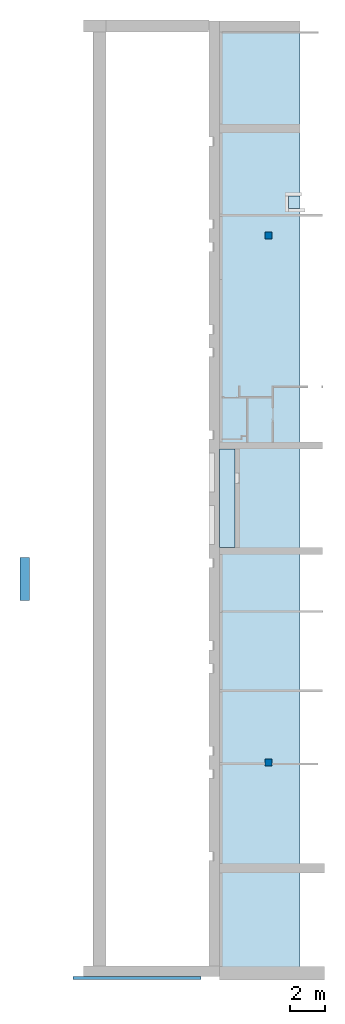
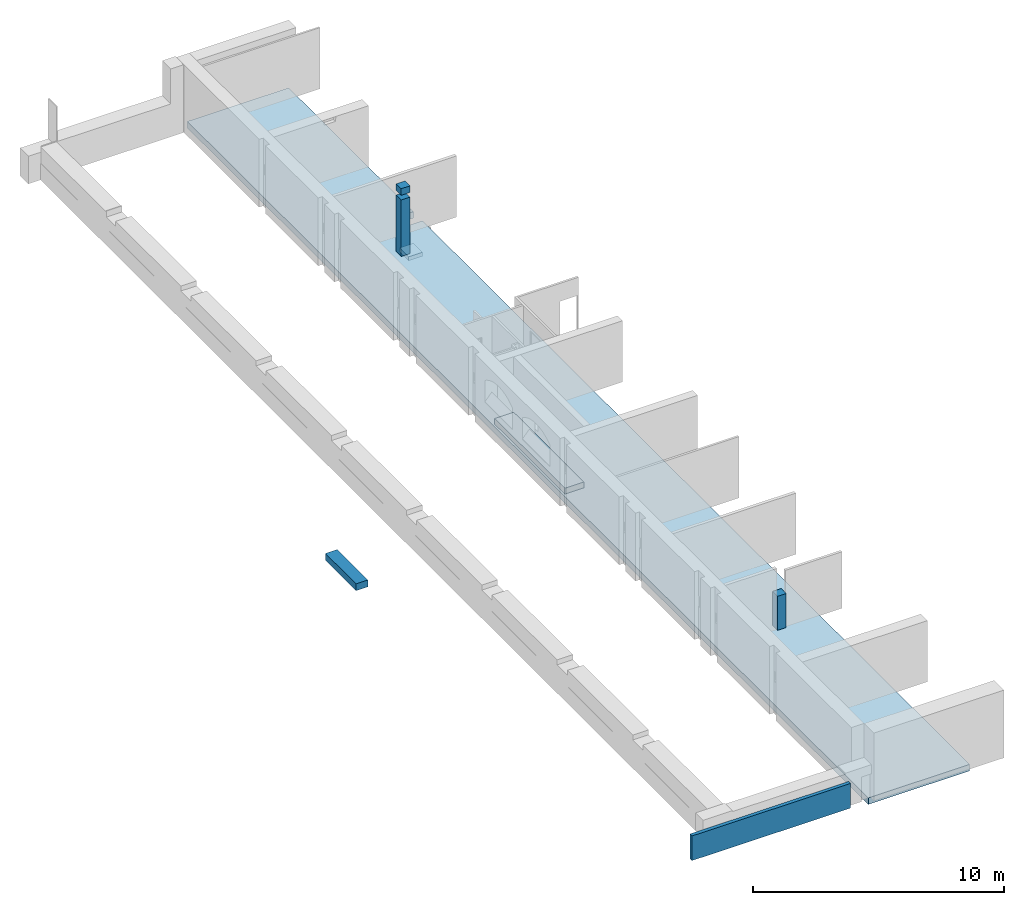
# One storey, part 1 of 11: 3 slabs, 2 columns, 1 beam, 1 wall, 6 openings, 1 element without a shape of its own.
"""IFC2X3 building model written with IfcOpenShell, lengths in millimetres."""

from ifc_helpers import new_model, entity, si_unit, converted_unit, derived_unit, direction, frame, frame_2d, origin, origin_2d_with_axis, place, context, subcontext, project, spatial, polyline, rectangle, outline, extrude, faceted_brep, source, transform, mapped, material, layer, layer_set, layer_usage, type_object, type_shapes, element, aggregate, save


model = new_model("IFC2X3")

# Units and contexts
model_context = context("Model", 3, precision=0.01, world=origin(), true_north=direction((6.123031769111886e-17, 1.0)))
body_context = subcontext(model_context, "Body", "Model", "MODEL_VIEW")
ifc_project = project(units=[si_unit("LENGTHUNIT", "METRE", prefix="MILLI"), si_unit("AREAUNIT", "SQUARE_METRE"), si_unit("VOLUMEUNIT", "CUBIC_METRE"), converted_unit("PLANEANGLEUNIT", "DEGREE", entity("IfcPlaneAngleMeasure", 0.017453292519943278), si_unit("PLANEANGLEUNIT", "RADIAN"), dimensions=[0, 0, 0, 0, 0, 0, 0]), si_unit("MASSUNIT", "GRAM", prefix="KILO"), derived_unit("MASSDENSITYUNIT", [(si_unit("MASSUNIT", "GRAM", prefix="KILO"), 1), (si_unit("LENGTHUNIT", "METRE"), -3)]), derived_unit("IONCONCENTRATIONUNIT", [(si_unit("MASSUNIT", "GRAM", prefix="KILO"), 1), (si_unit("LENGTHUNIT", "METRE"), -3)]), derived_unit("MOMENTOFINERTIAUNIT", [(si_unit("LENGTHUNIT", "METRE"), 4)]), si_unit("TIMEUNIT", "SECOND"), si_unit("FREQUENCYUNIT", "HERTZ"), si_unit("THERMODYNAMICTEMPERATUREUNIT", "DEGREE_CELSIUS"), derived_unit("THERMALTRANSMITTANCEUNIT", [(si_unit("MASSUNIT", "GRAM", prefix="KILO"), 1), (si_unit("THERMODYNAMICTEMPERATUREUNIT", "KELVIN"), -1), (si_unit("TIMEUNIT", "SECOND"), -3)]), derived_unit("THERMALCONDUCTANCEUNIT", [(si_unit("MASSUNIT", "GRAM", prefix="KILO"), 1), (si_unit("THERMODYNAMICTEMPERATUREUNIT", "KELVIN"), -1), (si_unit("TIMEUNIT", "SECOND"), -3), (si_unit("LENGTHUNIT", "METRE"), 1)]), derived_unit("VOLUMETRICFLOWRATEUNIT", [(si_unit("LENGTHUNIT", "METRE", prefix="DECI"), 3), (si_unit("TIMEUNIT", "SECOND"), -1)]), derived_unit("MASSFLOWRATEUNIT", [(si_unit("MASSUNIT", "GRAM", prefix="KILO"), 1), (si_unit("TIMEUNIT", "SECOND"), -1)]), derived_unit("ROTATIONALFREQUENCYUNIT", [(si_unit("TIMEUNIT", "SECOND"), -1)]), si_unit("ELECTRICCURRENTUNIT", "AMPERE"), si_unit("ELECTRICVOLTAGEUNIT", "VOLT"), si_unit("POWERUNIT", "WATT"), si_unit("FORCEUNIT", "NEWTON", prefix="KILO"), si_unit("ILLUMINANCEUNIT", "LUX"), si_unit("LUMINOUSFLUXUNIT", "LUMEN"), si_unit("LUMINOUSINTENSITYUNIT", "CANDELA"), si_unit("ENERGYUNIT", "JOULE"), derived_unit("USERDEFINED", [(si_unit("MASSUNIT", "GRAM", prefix="KILO"), -1), (si_unit("LENGTHUNIT", "METRE"), -2), (si_unit("TIMEUNIT", "SECOND"), 3), (si_unit("LUMINOUSFLUXUNIT", "LUMEN"), 1)]), derived_unit("USERDEFINED", [(si_unit("MASSUNIT", "GRAM", prefix="KILO"), 1), (si_unit("TIMEUNIT", "SECOND"), -3), (si_unit("LENGTHUNIT", "METRE"), 3), (si_unit("ELECTRICCURRENTUNIT", "AMPERE"), -2)]), derived_unit("SOUNDPOWERUNIT", [(si_unit("MASSUNIT", "GRAM", prefix="KILO"), 1), (si_unit("TIMEUNIT", "SECOND"), -3), (si_unit("LENGTHUNIT", "METRE"), 2)]), derived_unit("SOUNDPRESSUREUNIT", [(si_unit("MASSUNIT", "GRAM", prefix="KILO"), 1), (si_unit("LENGTHUNIT", "METRE"), -1), (si_unit("TIMEUNIT", "SECOND"), -2)]), derived_unit("LINEARVELOCITYUNIT", [(si_unit("LENGTHUNIT", "METRE"), 1), (si_unit("TIMEUNIT", "SECOND"), -1)]), si_unit("PRESSUREUNIT", "PASCAL"), derived_unit("USERDEFINED", [(si_unit("MASSUNIT", "GRAM", prefix="KILO"), 1), (si_unit("LENGTHUNIT", "METRE"), -2), (si_unit("TIMEUNIT", "SECOND"), -2)]), derived_unit("LINEARFORCEUNIT", [(si_unit("MASSUNIT", "GRAM", prefix="KILO"), 1), (si_unit("TIMEUNIT", "SECOND"), -2)]), derived_unit("PLANARFORCEUNIT", [(si_unit("MASSUNIT", "GRAM", prefix="KILO"), 1), (si_unit("LENGTHUNIT", "METRE"), -1), (si_unit("TIMEUNIT", "SECOND"), -2)]), derived_unit("SPECIFICHEATCAPACITYUNIT", [(si_unit("THERMODYNAMICTEMPERATUREUNIT", "KELVIN"), -1), (si_unit("LENGTHUNIT", "METRE"), 2), (si_unit("TIMEUNIT", "SECOND"), -2)]), derived_unit("HEATFLUXDENSITYUNIT", [(si_unit("MASSUNIT", "GRAM", prefix="KILO"), 1), (si_unit("TIMEUNIT", "SECOND"), -3)]), derived_unit("HEATINGVALUEUNIT", [(si_unit("LENGTHUNIT", "METRE"), 2), (si_unit("TIMEUNIT", "SECOND"), -2)]), derived_unit("VAPORPERMEABILITYUNIT", [(si_unit("LENGTHUNIT", "METRE"), -1), (si_unit("TIMEUNIT", "SECOND"), 1)]), derived_unit("DYNAMICVISCOSITYUNIT", [(si_unit("MASSUNIT", "GRAM", prefix="KILO"), 1), (si_unit("TIMEUNIT", "SECOND"), -1), (si_unit("LENGTHUNIT", "METRE"), -1)]), derived_unit("THERMALEXPANSIONCOEFFICIENTUNIT", [(si_unit("THERMODYNAMICTEMPERATUREUNIT", "KELVIN"), -1)]), derived_unit("MODULUSOFELASTICITYUNIT", [(si_unit("MASSUNIT", "GRAM", prefix="KILO"), 1), (si_unit("LENGTHUNIT", "METRE"), -1), (si_unit("TIMEUNIT", "SECOND"), -2)]), derived_unit("ISOTHERMALMOISTURECAPACITYUNIT", [(si_unit("MASSUNIT", "GRAM", prefix="KILO"), -1), (si_unit("LENGTHUNIT", "METRE"), 3)]), derived_unit("MOISTUREDIFFUSIVITYUNIT", [(si_unit("TIMEUNIT", "SECOND"), -1), (si_unit("LENGTHUNIT", "METRE"), 2)]), derived_unit("MASSPERLENGTHUNIT", [(si_unit("MASSUNIT", "GRAM", prefix="KILO"), 1), (si_unit("LENGTHUNIT", "METRE"), -1)]), derived_unit("THERMALRESISTANCEUNIT", [(si_unit("MASSUNIT", "GRAM", prefix="KILO"), -1), (si_unit("TIMEUNIT", "SECOND"), 3), (si_unit("THERMODYNAMICTEMPERATUREUNIT", "KELVIN"), 1)]), derived_unit("ACCELERATIONUNIT", [(si_unit("LENGTHUNIT", "METRE"), 1), (si_unit("TIMEUNIT", "SECOND"), -2)]), derived_unit("ANGULARVELOCITYUNIT", [(si_unit("TIMEUNIT", "SECOND"), -1), (si_unit("PLANEANGLEUNIT", "RADIAN"), 1)]), derived_unit("LINEARSTIFFNESSUNIT", [(si_unit("MASSUNIT", "GRAM", prefix="KILO"), 1), (si_unit("TIMEUNIT", "SECOND"), -2)]), derived_unit("WARPINGCONSTANTUNIT", [(si_unit("LENGTHUNIT", "METRE"), 6)]), derived_unit("LINEARMOMENTUNIT", [(si_unit("MASSUNIT", "GRAM", prefix="KILO"), 1), (si_unit("LENGTHUNIT", "METRE"), 1), (si_unit("TIMEUNIT", "SECOND"), -2)]), derived_unit("TORQUEUNIT", [(si_unit("MASSUNIT", "GRAM", prefix="KILO"), 1), (si_unit("LENGTHUNIT", "METRE"), 2), (si_unit("TIMEUNIT", "SECOND"), -2)])], contexts=[model_context])

# Site, building, storey
site_placement = place(None, origin())
site = spatial("IfcSite", under=ifc_project, at=site_placement, Name="Default", CompositionType="ELEMENT")
building_placement = place(site_placement, origin())
building = spatial("IfcBuilding", under=site, at=building_placement, Name="Eesti Rahvusraamatukogu hoone renoveerimise projekteerimistööd", CompositionType="ELEMENT")
storey_placement = place(building_placement, frame((0.0, 0.0, -1650.0)))
storey = spatial("IfcBuildingStorey", under=building, at=storey_placement, Name="-1. korrus", CompositionType="ELEMENT", Elevation=-1650.0000000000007)

# Columns
ifc_material_1 = material(Name="ol. olev materjal")
column_type_1 = type_object("IfcColumnType", Name="Post, nelinurkne:ol. olev - 400x 400mm", PredefinedType="COLUMN", material=ifc_material_1)
shared_shape_1 = source(origin(), body_context, "Body", "SweptSolid", [
    extrude(rectangle(XDim=400.0, YDim=400.0, at=frame_2d((2.1742607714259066e-12, -42.0344563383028), x_axis=(1.0, 0.0))), frame((-33390.0, 12347.965543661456, -1650.0), z_axis=(0.0, 0.0, 1.0), x_axis=(-1.0, 0.0, 0.0)), (0.0, 0.0, 1.0), 1650.0000000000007),
])
type_shapes(column_type_1, [shared_shape_1])
column_1_placement = place(storey_placement, frame((0.0, 0.0, 1650.0)))
element("IfcColumn", 1, at=column_1_placement, inside=storey, type_object=column_type_1, material=ifc_material_1, Name="Post, nelinurkne:ol. olev - 400x 400mm", ObjectType="Post, nelinurkne:ol. olev - 400x 400mm", context=body_context, shape_type="MappedRepresentation", body=[
    mapped(shared_shape_1, transform((0.0, 0.0, 0.0), scale=1.0)),
])
column_type_2 = type_object("IfcColumnType", Name="Post, nelinurkne:ol. olev - 400x 400mm", PredefinedType="COLUMN", material=ifc_material_1)
shared_shape_2 = source(origin(), body_context, "Body", "SweptSolid", [
    extrude(rectangle(XDim=399.9999999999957, YDim=400.0, at=frame_2d((-4.334310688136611e-12, -2.1742607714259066e-12), x_axis=(1.0, 0.0))), frame((-33390.0, 42390.0, 1330.0), z_axis=(0.0, 0.0, 1.0), x_axis=(0.0, -1.0, 0.0)), (0.0, 0.0, 1.0), 319.99999999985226),
    extrude(rectangle(XDim=400.0, YDim=399.9999999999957, at=frame_2d((2.1742607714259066e-12, 0.0), x_axis=(1.0, 0.0))), frame((-33390.0, 42390.0, -1650.0), z_axis=(0.0, 0.0, 1.0), x_axis=(-1.0, 0.0, 0.0)), (0.0, 0.0, 1.0), 2750.000000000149),
])
type_shapes(column_type_2, [shared_shape_2])
column_2_placement = place(storey_placement, frame((0.0, 0.0, 1650.0)))
element("IfcColumn", 2, at=column_2_placement, inside=storey, type_object=column_type_2, material=ifc_material_1, Name="Post, nelinurkne:ol. olev - 400x 400mm", ObjectType="Post, nelinurkne:ol. olev - 400x 400mm", context=body_context, shape_type="MappedRepresentation", body=[
    mapped(shared_shape_2, transform((0.0, 0.0, 0.0), scale=1.0)),
])

# Beam
beam_type = type_object("IfcBeamType", Name="-2.korruse kanali tala:-2.korruse kanali tala", PredefinedType="NOTDEFINED")
beam_placement = place(storey_placement, frame((0.0, 0.0, 1650.0)))
element("IfcBeam", 3, at=beam_placement, inside=storey, type_object=beam_type, material=ifc_material_1, Name="-2.korruse kanali tala:-2.korruse kanali tala", ObjectType="-2.korruse kanali tala:-2.korruse kanali tala", context=body_context, shape_type="SweptSolid", body=[
    extrude(rectangle(XDim=329.69061535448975, YDim=2450.000000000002, at=frame_2d((2.1600499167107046e-12, -2.842170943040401e-14), x_axis=(0.0, 1.0))), frame((-47547.80960522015, 22840.0, -384.84530767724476), z_axis=(1.0, 0.0, 0.0), x_axis=(0.0, -1.0, 0.0)), (0.0, 0.0, 1.0), 543.8096052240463),
])

# Slab, openings
ifc_layer_1 = layer(ifc_material_1, 315.0)
ifc_layer_set_1 = layer_set([ifc_layer_1], Name="Floor:ol. olev - 315mm")
ifc_layer_usage_1 = layer_usage(ifc_layer_set_1, "AXIS3", "POSITIVE", 0.0)
slab_type_1 = type_object("IfcSlabType", Name="Floor:ol. olev - 315mm", PredefinedType="FLOOR", material=ifc_layer_set_1)
slab_1_placement = place(storey_placement, origin())
slab_1 = element("IfcSlab", 4, at=slab_1_placement, inside=storey, type_object=slab_type_1, material=ifc_layer_usage_1, Name="Floor:ol. olev - 315mm", ObjectType="Floor:ol. olev - 315mm", PredefinedType="FLOOR", context=body_context, shape_type="SweptSolid", body=[
    extrude(outline(polyline([(-35572.03870611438, -3341.2287286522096), (18728.337573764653, -3341.2287286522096), (18728.337573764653, 1329.1262630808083), (8786.85056617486, 1329.1262630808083), (8786.85056617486, 682.9762024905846), (8056.850566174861, 682.9762024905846), (8056.850566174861, 1329.1262630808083), (-35572.0387061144, 1329.1262630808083), (-35572.03870611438, -3341.2287286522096)])), frame((-32938.94469430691, 35862.03870611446, 0.0), z_axis=(0.0, 0.0, -1.0), x_axis=(0.0, 1.0, 0.0)), (0.0, 0.0, 1.0), 315.00000000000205),
])
opening_1_placement = place(slab_1_placement, origin())
element("IfcOpeningElement", 5, at=opening_1_placement, cuts=slab_1, Name="Floor:ol. olev - 315mm", ObjectType="Opening", context=body_context, shape_type="SweptSolid", body=[
    extrude(outline(polyline([(3253.749999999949, 3749.374515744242), (3383.7499999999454, 3749.374515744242), (3383.7499999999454, 4819.374515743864), (-2666.2499999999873, 4819.374515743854), (-2666.2499999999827, 3749.374515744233), (-2596.249999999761, 3749.374515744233), (-2596.249999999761, -795.6216102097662), (423.74999999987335, -795.621610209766), (423.74999999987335, -2515.6254842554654), (-2466.2500000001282, -2515.6254842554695), (-2466.2500000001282, -2650.6254842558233), (-2716.2499999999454, -2650.6254842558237), (-2716.2499999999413, -3705.625484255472), (3383.7499999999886, -3705.625484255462), (3383.7499999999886, -2650.625484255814), (3253.749999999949, -2650.6254842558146), (3253.749999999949, 3749.374515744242)])), frame((2060.6254842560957, 39056.24999999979, 0.0), z_axis=(0.0, 0.0, -1.0), x_axis=(0.0, 1.0, 0.0)), (0.0, 0.0, 1.0), 315.0),
])
opening_2_placement = place(slab_1_placement, origin())
element("IfcOpeningElement", 6, at=opening_2_placement, cuts=slab_1, Name="Floor:ol. olev - 315mm", ObjectType="Opening", context=body_context, shape_type="SweptSolid", body=[
    extrude(rectangle(XDim=1050.1799999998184, YDim=1000.0000000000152, at=origin_2d_with_axis()), frame((30615.090000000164, 25970.0, 0.0), z_axis=(0.0, 0.0, -1.0), x_axis=(1.0, 0.0, 0.0)), (0.0, 0.0, 1.0), 315.0),
])
opening_3_placement = place(slab_1_placement, origin())
element("IfcOpeningElement", 7, at=opening_3_placement, cuts=slab_1, Name="Floor:ol. olev - 315mm", ObjectType="Opening", context=body_context, shape_type="SweptSolid", body=[
    extrude(rectangle(XDim=1099.9999999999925, YDim=1099.999999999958, at=origin_2d_with_axis()), frame((31540.0, 27930.0, 0.0), z_axis=(0.0, 0.0, -1.0), x_axis=(0.0, -1.0, 0.0)), (0.0, 0.0, 1.0), 315.0),
])
opening_4_placement = place(slab_1_placement, origin())
element("IfcOpeningElement", 8, at=opening_4_placement, cuts=slab_1, Name="Floor:ol. olev - 315mm", ObjectType="Opening", context=body_context, shape_type="SweptSolid", body=[
    extrude(rectangle(XDim=729.9999999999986, YDim=729.7950688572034, at=frame_2d((4.320099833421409e-12, -2.1600499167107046e-12), x_axis=(1.0, 0.0))), frame((-31891.070957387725, 44283.88927228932, 0.0), z_axis=(0.0, 0.0, -1.0), x_axis=(0.0, -1.0, 0.0)), (0.0, 0.0, 1.0), 315.0),
])
opening_5_placement = place(slab_1_placement, origin())
element("IfcOpeningElement", 9, at=opening_5_placement, cuts=slab_1, Name="Floor:ol. olev - 315mm", ObjectType="Opening", context=body_context, shape_type="SweptSolid", body=[
    extrude(outline(polyline([(-799.8333109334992, -298.75427597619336), (-799.8333109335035, -1780.4914480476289), (910.1666554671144, -1780.4914480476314), (910.1666554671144, 2079.2457240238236), (-110.3333445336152, 2079.2457240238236), (-110.33334453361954, -298.75427597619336), (-799.8333109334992, -298.75427597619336)])), frame((2870.4914480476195, 31620.166655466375, 0.0), z_axis=(0.0, 0.0, 1.0), x_axis=(0.0, -1.0, 0.0)), (0.0, 0.0, -1.0), 315.0),
])

# Slab
ifc_layer_2 = layer(ifc_material_1, 200.0)
ifc_layer_set_2 = layer_set([ifc_layer_2], Name="Floor:ol. olev - 200mm")
ifc_layer_usage_2 = layer_usage(ifc_layer_set_2, "AXIS3", "POSITIVE", 0.0)
slab_type_2 = type_object("IfcSlabType", Name="Floor:ol. olev - 200mm", PredefinedType="FLOOR", material=ifc_layer_set_2)
slab_2_placement = place(storey_placement, origin())
element("IfcSlab", 10, at=slab_2_placement, inside=storey, type_object=slab_type_2, material=ifc_layer_usage_2, Name="Floor:ol. olev - 200mm", ObjectType="Floor:ol. olev - 200mm", PredefinedType="FLOOR", context=body_context, shape_type="SweptSolid", body=[
    extrude(rectangle(XDim=729.9999999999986, YDim=646.1500605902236, at=frame_2d((-4.320099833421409e-12, 0.0), x_axis=(1.0, 0.0))), frame((-31932.893461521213, 44283.88927228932, -1530.0), z_axis=(0.0, 0.0, -1.0), x_axis=(0.0, 1.0, 0.0)), (0.0, 0.0, 1.0), 200.0),
])

# Roof, slab
ifc_material_2 = material(Name="EST. Rullmaterjal. SBS")
ifc_layer_3 = layer(ifc_material_2, 5.0)
ifc_material_3 = material(Name="EST. Soojustus.PIR_Eurothane Silver E")
ifc_layer_4 = layer(ifc_material_3, 250.00000000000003)
ifc_material_4 = material(Name="EST. Betoon. Kohtvalu. Tasandus")
ifc_layer_5 = layer(ifc_material_4, 30.0)
ifc_layer_set_3 = layer_set([ifc_layer_3, ifc_layer_4, ifc_layer_5], Name="Basic Roof:KL-11 - mitte-käidav, ilma kaldeta")
roof_placement = place(storey_placement, frame((-36190.17342295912, 24630.0, 0.0)))
roof = element("IfcRoof", 11, at=roof_placement, inside=storey, material=ifc_layer_set_3, Name="Basic Roof:KL-11 - mitte-käidav, ilma kaldeta", ObjectType="Basic Roof:KL-11 - mitte-käidav, ilma kaldeta", ShapeType="NOTDEFINED")
slab_3_placement = place(roof_placement, origin())
slab_3 = element("IfcSlab", 12, at=slab_3_placement, material=ifc_layer_set_3, Name="Basic Roof:KL-11 - mitte-käidav, ilma kaldeta", ObjectType="Basic Roof:KL-11 - mitte-käidav, ilma kaldeta", PredefinedType="ROOF", context=body_context, shape_type="SweptSolid", body=[
    extrude(rectangle(XDim=870.1734229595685, YDim=5599.999999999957, at=origin_2d_with_axis()), frame((435.08671147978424, 2800.0, 0.0)), (0.0, 0.0, 1.0), 285.00000000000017),
])
aggregate(roof, [slab_3])

# Wall, opening
ifc_material_5 = material(Name="EST. Ehitusplaat. Kipsplaat")
ifc_layer_6 = layer(ifc_material_5, 14.0)
ifc_material_6 = material(Name="EST. Ehitusplaat. OSB")
ifc_layer_7 = layer(ifc_material_6, 15.0)
ifc_material_7 = material(Name="EST. Õhkvahe. Roov. Kipsplaadi alusroov. Vertikaalne")
ifc_layer_8 = layer(ifc_material_7, 66.0)
ifc_material_8 = material(Name="EST. Soojustus.PIR. Default")
ifc_layer_9 = layer(ifc_material_8, 70.0)
ifc_layer_set_4 = layer_set([ifc_layer_6, ifc_layer_7, ifc_layer_8, ifc_layer_9], Name="Basic Wall:VS-01 - 165 sooj. mitte läbiv")
ifc_layer_usage_3 = layer_usage(ifc_layer_set_4, "AXIS2", "POSITIVE", -82.49999999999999)
wall_type = type_object("IfcWallType", Name="Basic Wall:VS-01 - 165 sooj. mitte läbiv", PredefinedType="STANDARD", material=ifc_layer_set_4)
wall_placement = place(storey_placement, frame((-44540.0, 113.500000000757, 0.0)))
wall = element("IfcWallStandardCase", 13, at=wall_placement, inside=storey, type_object=wall_type, material=ifc_layer_usage_3, Name="Basic Wall:VS-01 - 165 sooj. mitte läbiv", ObjectType="Basic Wall:VS-01 - 165 sooj. mitte läbiv", context=body_context, shape_type="SweptSolid", body=[
    extrude(rectangle(XDim=7300.000000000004, YDim=165.0, at=frame_2d((3650.000000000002, 2.1316282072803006e-14), x_axis=(-1.0, 0.0))), origin(), (0.0, 0.0, 1.0), 1200.0000000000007),
])
opening_6_placement = place(wall_placement, frame((44540.0, -113.50000000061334, 1650.0)))
element("IfcOpeningElement", 14, at=opening_6_placement, cuts=wall, Name="Basic Wall:VS-01 - 165 sooj. mitte läbiv", ObjectType="Opening", context=body_context, shape_type="Brep", body=[
    faceted_brep([(-30000.0, 0.0, 0.0), (-30000.0, 0.0, 1660.0), (-30000.0, -442.85686824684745, 1885.1089561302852), (-30000.0, -904.3315182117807, 2069.0583929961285), (-30000.0, -1263.7008843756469, 2166.8178757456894), (-30000.0, -1623.0702505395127, 2264.577358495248), (-30000.0, -2114.136035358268, 2339.748116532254), (-30000.0, -2610.0, 2370.0), (-30000.0, -3105.863964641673, 2339.748116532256), (-30000.0, -3596.9297494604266, 2264.5773584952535), (-30000.0, -3956.299115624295, 2166.8178757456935), (-30000.0, -4315.668481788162, 2069.0583929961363), (-30000.0, -4777.143131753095, 1885.108956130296), (-30000.0, -5220.0, 1660.0), (-30000.0, -5220.0, 0.0), (-30780.0, -5220.0, 0.0), (-30780.0, -5220.0, 1660.0), (-30780.0, -4777.143131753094, 1885.108956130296), (-30780.0, -4315.668481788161, 2069.0583929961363), (-30780.0, -3956.299115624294, 2166.817875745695), (-30780.0, -3596.9297494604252, 2264.5773584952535), (-30780.0, -3105.863964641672, 2339.748116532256), (-30780.0, -2610.0, 2370.0), (-30780.0, -2114.136035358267, 2339.748116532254), (-30780.0, -1623.0702505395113, 2264.577358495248), (-30780.0, -1263.700884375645, 2166.817875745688), (-30780.0, -904.3315182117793, 2069.0583929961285), (-30780.0, -442.8568682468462, 1885.1089561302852), (-30780.0, 0.0, 1660.0), (-30780.0, 0.0, 0.0)], [[[0, 1, 2, 3, 4, 5, 6, 7, 8, 9, 10, 11, 12, 13, 14]], [[15, 16, 17, 18, 19, 20, 21, 22, 23, 24, 25, 26, 27, 28, 29]], [[1, 0, 29, 28]], [[2, 1, 28, 27]], [[3, 2, 27, 26]], [[5, 4, 3, 26, 25, 24]], [[6, 5, 24, 23]], [[7, 6, 23, 22]], [[8, 7, 22, 21]], [[9, 8, 21, 20]], [[11, 10, 9, 20, 19, 18]], [[12, 11, 18, 17]], [[13, 12, 17, 16]], [[14, 13, 16, 15]], [[0, 14, 15, 29]]]),
])

save(model, "model.ifc")
